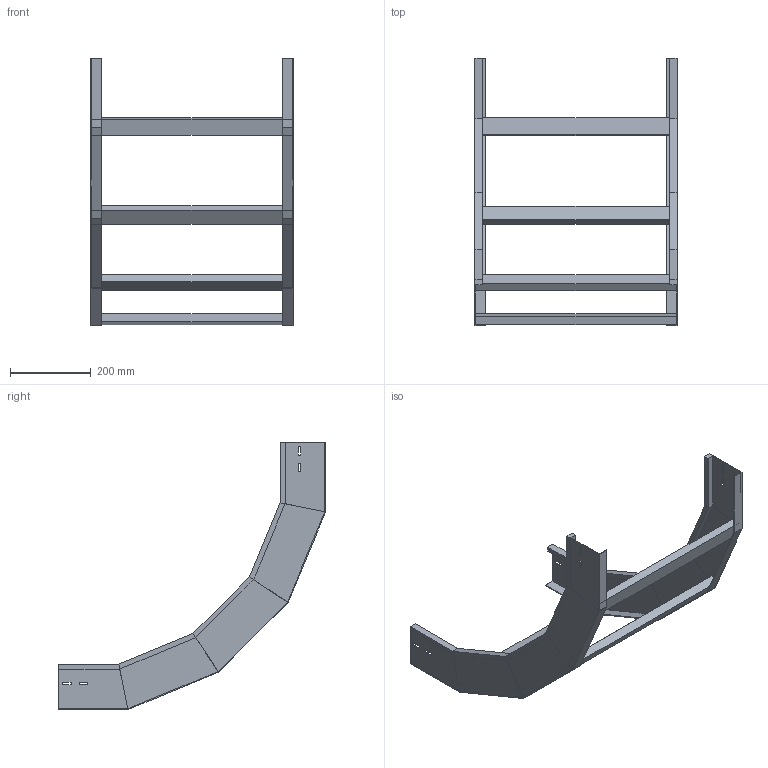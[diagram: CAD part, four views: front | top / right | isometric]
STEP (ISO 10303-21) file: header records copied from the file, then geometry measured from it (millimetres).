
FILE_DESCRIPTION (( 'STEP AP214' ), '1' );
FILE_NAME ('A2X30B5J500XX.step', '2025-03-20T10:22:07', ( '' ), ( '' ), 'SwSTEP 2.0', 'SolidWorks 2023', '' );
FILE_SCHEMA (( 'AUTOMOTIVE_DESIGN' ));
Length unit declared in the file: millimetre
Products named in the file (3): TRAVERSINO_500; LONGH.SALITA_90°_H112.5_R500; A2X30B5J500XX
Assembly tree (6 placements, depth 2):
  A2X30B5J500XX
    LONGH.SALITA_90°_H112.5_R500  x2
    TRAVERSINO_500  x4
Bounding box: 500 x 661.62 x 661.62 mm (x, y, z)
Volume: 2501708.4 mm3; surface area: 862591.7 mm2
Topology: 6 solids, 6 shells, 140 faces, 320 edges, 192 vertices
Faces by surface type: plane 140
Entity records: 1872 total; most frequent: CARTESIAN_POINT 309, ORIENTED_EDGE 296, DIRECTION 294, LINE 148, EDGE_CURVE 148, VECTOR 148, VERTEX_POINT 88, AXIS2_PLACEMENT_3D 73
